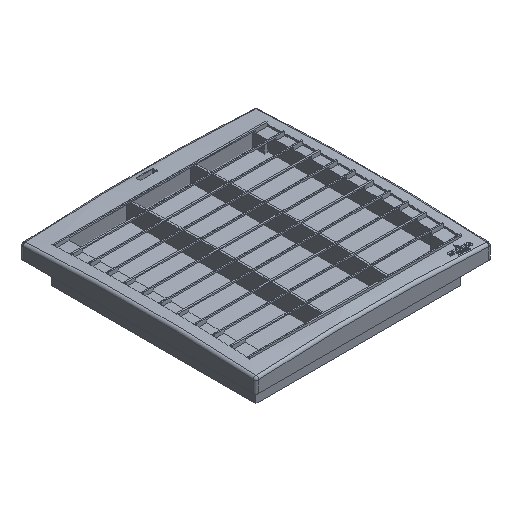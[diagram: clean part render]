
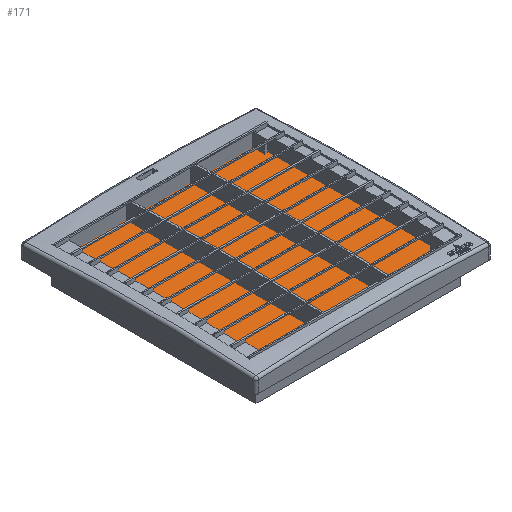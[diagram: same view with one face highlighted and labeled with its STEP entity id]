
A CAD part, isometric view. The second image highlights one B-rep face of the part: STEP entity #171.
In plain terms, the highlighted planar face has unit normal (0, 0, 1).
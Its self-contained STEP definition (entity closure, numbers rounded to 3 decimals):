
#171 = ADVANCED_FACE ( 'NONE', ( #2002 ), #9271, .F. ) ;
#1101 = ORIENTED_EDGE ( 'NONE', *, *, #13039, .F. ) ;
#1220 = CARTESIAN_POINT ( 'NONE',  ( -13., 13., 2. ) ) ;
#1778 = VECTOR ( 'NONE', #4661, 1000. ) ;
#2002 = FACE_OUTER_BOUND ( 'NONE', #2797, .T. ) ;
#2797 = EDGE_LOOP ( 'NONE', ( #1101, #15377, #8829, #8572 ) ) ;
#3182 = CARTESIAN_POINT ( 'NONE',  ( -13., -236., 2. ) ) ;
#3263 = DIRECTION ( 'NONE',  ( -1., 0., 0. ) ) ;
#3290 = CARTESIAN_POINT ( 'NONE',  ( 111.5, -111.5, 2. ) ) ;
#3686 = VECTOR ( 'NONE', #15449, 1000. ) ;
#3989 = VECTOR ( 'NONE', #6648, 1000. ) ;
#4661 = DIRECTION ( 'NONE',  ( 0., 1., 0. ) ) ;
#5665 = VECTOR ( 'NONE', #3263, 1000. ) ;
#6648 = DIRECTION ( 'NONE',  ( 0., -1., 0. ) ) ;
#6953 = VERTEX_POINT ( 'NONE', #11574 ) ;
#7199 = CARTESIAN_POINT ( 'NONE',  ( 236., -236., 2. ) ) ;
#7792 = EDGE_CURVE ( 'NONE', #11344, #11563, #14105, .T. ) ;
#7925 = DIRECTION ( 'NONE',  ( -1., 0., 0. ) ) ;
#8495 = EDGE_CURVE ( 'NONE', #11563, #6953, #10022, .T. ) ;
#8572 = ORIENTED_EDGE ( 'NONE', *, *, #9345, .F. ) ;
#8829 = ORIENTED_EDGE ( 'NONE', *, *, #7792, .F. ) ;
#9102 = VERTEX_POINT ( 'NONE', #7199 ) ;
#9271 = PLANE ( 'NONE',  #11594 ) ;
#9345 = EDGE_CURVE ( 'NONE', #9102, #11344, #15237, .T. ) ;
#10022 = LINE ( 'NONE', #13120, #3686 ) ;
#10329 = LINE ( 'NONE', #11416, #3989 ) ;
#11344 = VERTEX_POINT ( 'NONE', #3182 ) ;
#11416 = CARTESIAN_POINT ( 'NONE',  ( 236., 13., 2. ) ) ;
#11563 = VERTEX_POINT ( 'NONE', #1220 ) ;
#11574 = CARTESIAN_POINT ( 'NONE',  ( 236., 13., 2. ) ) ;
#11594 = AXIS2_PLACEMENT_3D ( 'NONE', #3290, #12719, #7925 ) ;
#12719 = DIRECTION ( 'NONE',  ( 0., 0., -1. ) ) ;
#13019 = CARTESIAN_POINT ( 'NONE',  ( -13., 13., 2. ) ) ;
#13039 = EDGE_CURVE ( 'NONE', #6953, #9102, #10329, .T. ) ;
#13120 = CARTESIAN_POINT ( 'NONE',  ( 236., 13., 2. ) ) ;
#14105 = LINE ( 'NONE', #13019, #1778 ) ;
#15180 = CARTESIAN_POINT ( 'NONE',  ( 236., -236., 2. ) ) ;
#15237 = LINE ( 'NONE', #15180, #5665 ) ;
#15377 = ORIENTED_EDGE ( 'NONE', *, *, #8495, .F. ) ;
#15449 = DIRECTION ( 'NONE',  ( 1., 0., 0. ) ) ;
